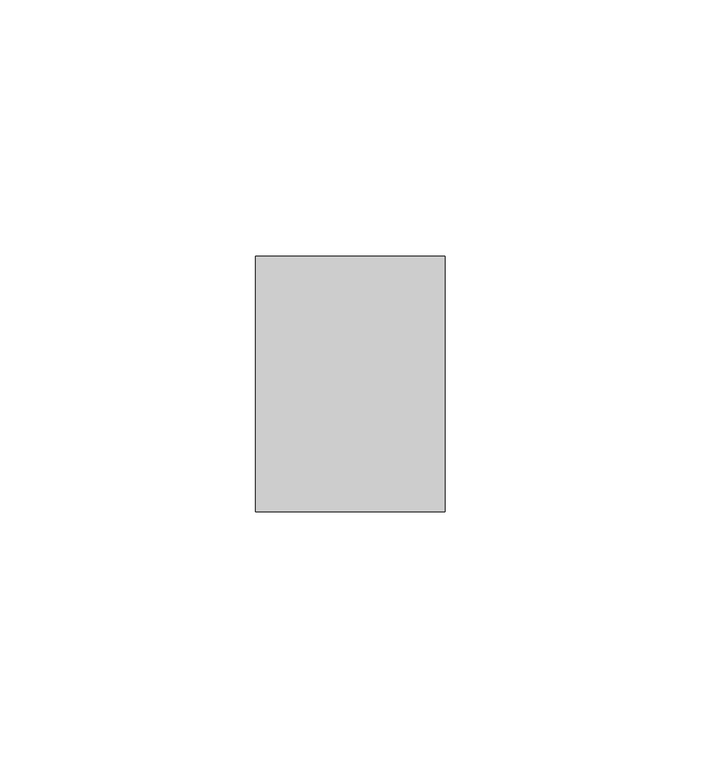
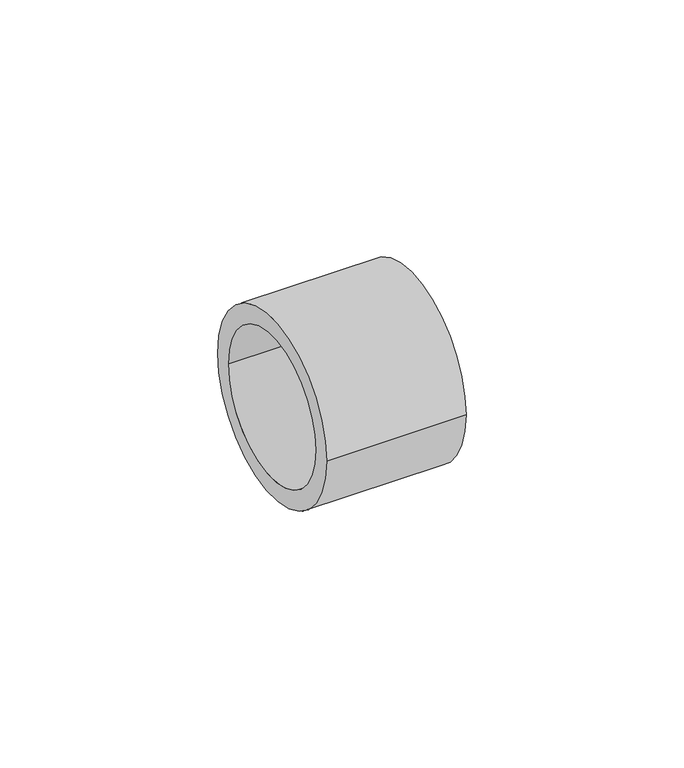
"""IFC4 building model written with IfcOpenShell, lengths in millimetres: pipe fitting geometry, REHAU_RAUTITAN_Sleeve_PX : REHAU_RAUTITAN_Sleeve_PX."""

from ifc_helpers import new_model, si_unit, point, frame, origin, origin_2d, place, context, project, spatial, circle_curve, trimmed, segment, composite_curve, outline, extrude, source, transform, mapped, element, save


def pipe_fitting_925a95b2(model_context):
    return source(origin(), model_context, "Body", "SweptSolid", [
        extrude(outline(composite_curve([segment(trimmed(circle_curve(origin_2d(), 25.0), [point((-25.0, 0.0))], [point((25.0, 0.0))], False, "CARTESIAN"), True, "CONTINUOUS"), segment(trimmed(circle_curve(origin_2d(), 25.0), [point((25.0, 0.0))], [point((-25.0, 0.0))], False, "CARTESIAN"), True, "CONTINUOUS")], self_intersect=False), holes=[composite_curve([segment(trimmed(circle_curve(origin_2d(), 20.0), [point((-20.0, 0.0))], [point((20.0, 0.0))], True, "CARTESIAN"), True, "CONTINUOUS"), segment(trimmed(circle_curve(origin_2d(), 20.0), [point((20.0, 0.0))], [point((-20.0, 0.0))], True, "CARTESIAN"), True, "CONTINUOUS")], self_intersect=False)]), frame((0.0, 0.0, 0.0), z_axis=(1.0, 0.0, 0.0), x_axis=(0.0, 1.0, 0.0)), (0.0, 0.0, 1.0), 37.0),
    ])


if __name__ == "__main__":
    model = new_model("IFC4")
    model_context = context("Model", 3, world=origin())
    ifc_project = project(units=[si_unit("LENGTHUNIT", "METRE", prefix="MILLI")], contexts=[model_context])
    site = spatial("IfcSite", under=ifc_project)
    building = spatial("IfcBuilding", under=site)
    placement = place(None, origin())
    pipe_fitting_shape = pipe_fitting_925a95b2(model_context)
    element("IfcPipeFitting", 1, ObjectType="REHAU_RAUTITAN_Sleeve_PX : REHAU_RAUTITAN_Sleeve_PX", at=placement, inside=building, context=model_context, shape_type="MappedRepresentation", body=[
        mapped(pipe_fitting_shape, transform((0.0, 0.0, 0.0), x_axis=(1.0, 0.0, 0.0), y_axis=(0.0, 1.0, 0.0), z_axis=(0.0, 0.0, 1.0))),
    ])
    save(model, "model.ifc")
